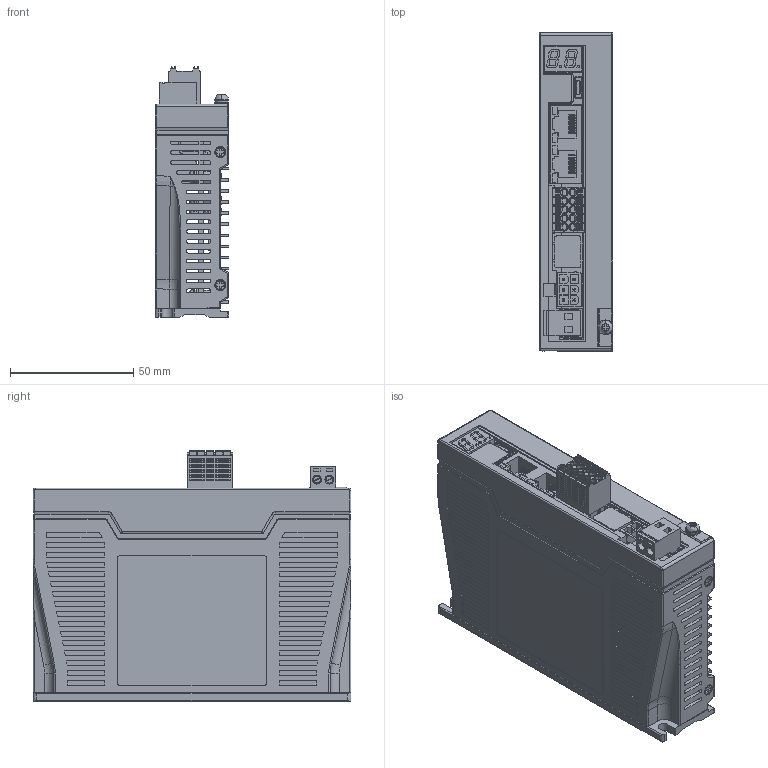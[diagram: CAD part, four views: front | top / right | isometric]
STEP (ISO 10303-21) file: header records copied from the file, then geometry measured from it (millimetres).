
FILE_DESCRIPTION((''),'2;1');
FILE_NAME('YKE5405PE','2025-11-27T16:54:36',('Admin'),(''),'CREO PARAMETRIC BY PTC INC, 2020074','CREO PARAMETRIC BY PTC INC, 2020074','');
FILE_SCHEMA(('CONFIG_CONTROL_DESIGN','SHAPE_APPEARANCE_LAYERS_GROUPS'));
Products named in the file (1): YKE5405PE
Bounding box: 30 x 129 x 101.7 mm (x, y, z)
Volume: 115247.5 mm3; surface area: 115011.2 mm2
Topology: 2 solids, 13 shells, 4245 faces, 11382 edges, 7293 vertices
Faces by surface type: plane 2702, cylinder 1012, bspline 218, cone 169, torus 62, sphere 56, extrusion 26
Entity records: 178719 total; most frequent: CARTESIAN_POINT 42636, ORIENTED_EDGE 22658, DIRECTION 20254, EDGE_CURVE 11329, VECTOR 8324, LINE 8298, VERTEX_POINT 7293, AXIS2_PLACEMENT_3D 5965
